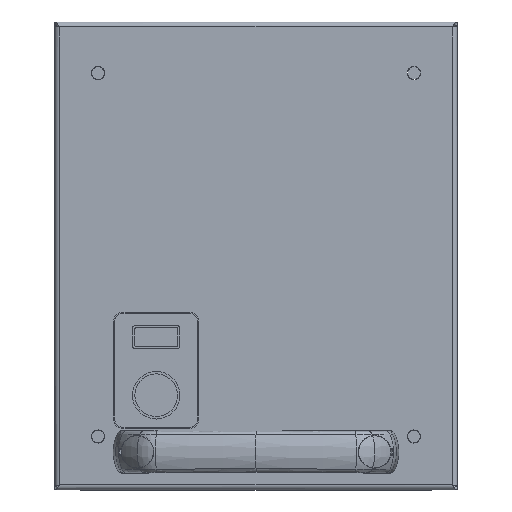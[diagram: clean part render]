
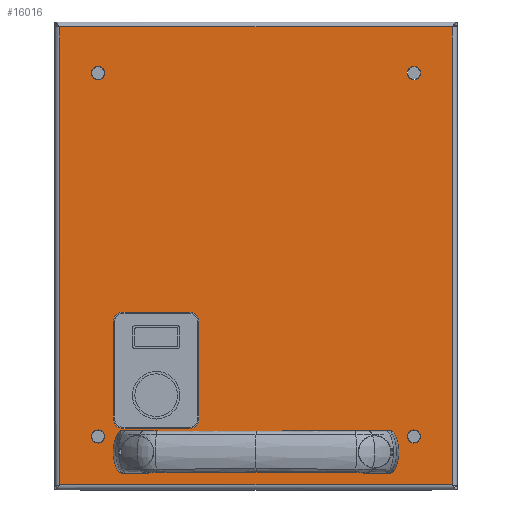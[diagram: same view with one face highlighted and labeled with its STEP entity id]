
A CAD part, top view. The second image highlights one B-rep face of the part: STEP entity #16016.
In plain terms, the highlighted planar face has unit normal (0, 0, 1).
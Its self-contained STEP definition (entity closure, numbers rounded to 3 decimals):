
#15056=CARTESIAN_POINT(' ',(52.75,-82.5,0.));
#15057=VERTEX_POINT(' ',#15056);
#15076=CARTESIAN_POINT(' ',(50.,-82.5,0.));
#15081=DIRECTION(' ',(0.,0.,1.));
#15086=DIRECTION(' ',(1.,0.,0.));
#15091=AXIS2_PLACEMENT_3D(' ',#15076,#15081,#15086);
#15096=CIRCLE('',#15091,2.75);
#15101=CARTESIAN_POINT(' ',(47.25,-82.5,0.));
#15102=VERTEX_POINT(' ',#15101);
#15106=EDGE_CURVE(' ',#15057,#15102,#15096,.T.);
#15276=CARTESIAN_POINT(' ',(50.,-82.5,0.));
#15281=DIRECTION(' ',(0.,0.,1.));
#15286=DIRECTION(' ',(-1.,0.,0.));
#15291=AXIS2_PLACEMENT_3D(' ',#15276,#15281,#15286);
#15296=CIRCLE('',#15291,2.75);
#15301=EDGE_CURVE(' ',#15102,#15057,#15296,.T.);
#15371=DIRECTION(' ',(-0.,-0.,1.));
#15376=CARTESIAN_POINT(' ',(82.65,-96.4,0.));
#15381=DIRECTION(' ',(0.,1.,0.));
#15386=AXIS2_PLACEMENT_3D(' ',#15376,#15371,#15381);
#15391=PLANE('NONE',#15386);
#15396=CARTESIAN_POINT(' ',(82.65,-96.4,0.));
#15401=DIRECTION(' ',(0.,1.,0.));
#15406=VECTOR(' ',#15401,1.);
#15411=LINE('',#15396,#15406);
#15416=CARTESIAN_POINT(' ',(82.65,-96.4,0.));
#15417=VERTEX_POINT(' ',#15416);
#15421=CARTESIAN_POINT(' ',(82.65,96.4,0.));
#15422=VERTEX_POINT(' ',#15421);
#15426=EDGE_CURVE(' ',#15417,#15422,#15411,.T.);
#15431=ORIENTED_EDGE(' ',*,*,#15426,.T.);
#15436=CARTESIAN_POINT(' ',(82.65,96.4,0.));
#15441=DIRECTION(' ',(-1.,0.,0.));
#15446=VECTOR(' ',#15441,1.);
#15451=LINE('',#15436,#15446);
#15456=CARTESIAN_POINT(' ',(-82.65,96.4,0.));
#15457=VERTEX_POINT(' ',#15456);
#15461=EDGE_CURVE(' ',#15422,#15457,#15451,.T.);
#15466=ORIENTED_EDGE(' ',*,*,#15461,.T.);
#15471=CARTESIAN_POINT(' ',(-82.65,96.4,0.));
#15476=DIRECTION(' ',(0.,-1.,0.));
#15481=VECTOR(' ',#15476,1.);
#15486=LINE('',#15471,#15481);
#15491=CARTESIAN_POINT(' ',(-82.65,-96.4,0.));
#15492=VERTEX_POINT(' ',#15491);
#15496=EDGE_CURVE(' ',#15457,#15492,#15486,.T.);
#15501=ORIENTED_EDGE(' ',*,*,#15496,.T.);
#15506=CARTESIAN_POINT(' ',(-82.65,-96.4,0.));
#15511=DIRECTION(' ',(1.,0.,0.));
#15516=VECTOR(' ',#15511,1.);
#15521=LINE('',#15506,#15516);
#15526=EDGE_CURVE(' ',#15492,#15417,#15521,.T.);
#15531=ORIENTED_EDGE(' ',*,*,#15526,.T.);
#15536=EDGE_LOOP(' ',(#15431,#15466,#15501,#15531));
#15541=FACE_OUTER_BOUND(' ',#15536,.T.);
#15546=ORIENTED_EDGE(' ',*,*,#15301,.F.);
#15551=ORIENTED_EDGE(' ',*,*,#15106,.F.);
#15556=EDGE_LOOP(' ',(#15546,#15551));
#15561=FACE_BOUND(' ',#15556,.T.);
#15566=CARTESIAN_POINT(' ',(-66.5,77.,0.));
#15571=DIRECTION(' ',(0.,-0.,-1.));
#15576=DIRECTION(' ',(-1.,0.,0.));
#15581=AXIS2_PLACEMENT_3D(' ',#15566,#15571,#15576);
#15586=CIRCLE('',#15581,2.75);
#15591=CARTESIAN_POINT(' ',(-69.25,77.,0.));
#15592=VERTEX_POINT(' ',#15591);
#15596=CARTESIAN_POINT(' ',(-63.75,77.,0.));
#15597=VERTEX_POINT(' ',#15596);
#15601=EDGE_CURVE(' ',#15592,#15597,#15586,.T.);
#15606=ORIENTED_EDGE(' ',*,*,#15601,.T.);
#15611=CARTESIAN_POINT(' ',(-66.5,77.,0.));
#15616=DIRECTION(' ',(0.,0.,-1.));
#15621=DIRECTION(' ',(1.,0.,0.));
#15626=AXIS2_PLACEMENT_3D(' ',#15611,#15616,#15621);
#15631=CIRCLE('',#15626,2.75);
#15636=EDGE_CURVE(' ',#15597,#15592,#15631,.T.);
#15641=ORIENTED_EDGE(' ',*,*,#15636,.T.);
#15646=EDGE_LOOP(' ',(#15606,#15641));
#15651=FACE_BOUND(' ',#15646,.T.);
#15656=CARTESIAN_POINT(' ',(66.5,-76.,0.));
#15661=DIRECTION(' ',(0.,-0.,-1.));
#15666=DIRECTION(' ',(-1.,0.,0.));
#15671=AXIS2_PLACEMENT_3D(' ',#15656,#15661,#15666);
#15676=CIRCLE('',#15671,2.75);
#15681=CARTESIAN_POINT(' ',(63.75,-76.,0.));
#15682=VERTEX_POINT(' ',#15681);
#15686=CARTESIAN_POINT(' ',(69.25,-76.,0.));
#15687=VERTEX_POINT(' ',#15686);
#15691=EDGE_CURVE(' ',#15682,#15687,#15676,.T.);
#15696=ORIENTED_EDGE(' ',*,*,#15691,.T.);
#15701=CARTESIAN_POINT(' ',(66.5,-76.,0.));
#15706=DIRECTION(' ',(0.,0.,-1.));
#15711=DIRECTION(' ',(1.,0.,0.));
#15716=AXIS2_PLACEMENT_3D(' ',#15701,#15706,#15711);
#15721=CIRCLE('',#15716,2.75);
#15726=EDGE_CURVE(' ',#15687,#15682,#15721,.T.);
#15731=ORIENTED_EDGE(' ',*,*,#15726,.T.);
#15736=EDGE_LOOP(' ',(#15696,#15731));
#15741=FACE_BOUND(' ',#15736,.T.);
#15746=CARTESIAN_POINT(' ',(-66.5,-76.,0.));
#15751=DIRECTION(' ',(0.,-0.,-1.));
#15756=DIRECTION(' ',(-1.,0.,0.));
#15761=AXIS2_PLACEMENT_3D(' ',#15746,#15751,#15756);
#15766=CIRCLE('',#15761,2.75);
#15771=CARTESIAN_POINT(' ',(-69.25,-76.,0.));
#15772=VERTEX_POINT(' ',#15771);
#15776=CARTESIAN_POINT(' ',(-63.75,-76.,0.));
#15777=VERTEX_POINT(' ',#15776);
#15781=EDGE_CURVE(' ',#15772,#15777,#15766,.T.);
#15786=ORIENTED_EDGE(' ',*,*,#15781,.T.);
#15791=CARTESIAN_POINT(' ',(-66.5,-76.,0.));
#15796=DIRECTION(' ',(0.,0.,-1.));
#15801=DIRECTION(' ',(1.,0.,0.));
#15806=AXIS2_PLACEMENT_3D(' ',#15791,#15796,#15801);
#15811=CIRCLE('',#15806,2.75);
#15816=EDGE_CURVE(' ',#15777,#15772,#15811,.T.);
#15821=ORIENTED_EDGE(' ',*,*,#15816,.T.);
#15826=EDGE_LOOP(' ',(#15786,#15821));
#15831=FACE_BOUND(' ',#15826,.T.);
#15836=CARTESIAN_POINT(' ',(66.5,77.,0.));
#15841=DIRECTION(' ',(0.,-0.,-1.));
#15846=DIRECTION(' ',(-1.,0.,0.));
#15851=AXIS2_PLACEMENT_3D(' ',#15836,#15841,#15846);
#15856=CIRCLE('',#15851,2.75);
#15861=CARTESIAN_POINT(' ',(63.75,77.,0.));
#15862=VERTEX_POINT(' ',#15861);
#15866=CARTESIAN_POINT(' ',(69.25,77.,0.));
#15867=VERTEX_POINT(' ',#15866);
#15871=EDGE_CURVE(' ',#15862,#15867,#15856,.T.);
#15876=ORIENTED_EDGE(' ',*,*,#15871,.T.);
#15881=CARTESIAN_POINT(' ',(66.5,77.,0.));
#15886=DIRECTION(' ',(0.,0.,-1.));
#15891=DIRECTION(' ',(1.,0.,0.));
#15896=AXIS2_PLACEMENT_3D(' ',#15881,#15886,#15891);
#15901=CIRCLE('',#15896,2.75);
#15906=EDGE_CURVE(' ',#15867,#15862,#15901,.T.);
#15911=ORIENTED_EDGE(' ',*,*,#15906,.T.);
#15916=EDGE_LOOP(' ',(#15876,#15911));
#15921=FACE_BOUND(' ',#15916,.T.);
#15926=CARTESIAN_POINT(' ',(-50.,-82.5,0.));
#15931=DIRECTION(' ',(0.,0.,1.));
#15936=DIRECTION(' ',(-1.,0.,0.));
#15941=AXIS2_PLACEMENT_3D(' ',#15926,#15931,#15936);
#15946=CIRCLE('',#15941,2.75);
#15951=CARTESIAN_POINT(' ',(-52.75,-82.5,0.));
#15952=VERTEX_POINT(' ',#15951);
#15956=CARTESIAN_POINT(' ',(-47.25,-82.5,0.));
#15957=VERTEX_POINT(' ',#15956);
#15961=EDGE_CURVE(' ',#15952,#15957,#15946,.T.);
#15966=ORIENTED_EDGE(' ',*,*,#15961,.F.);
#15971=CARTESIAN_POINT(' ',(-50.,-82.5,0.));
#15976=DIRECTION(' ',(0.,0.,1.));
#15981=DIRECTION(' ',(1.,0.,0.));
#15986=AXIS2_PLACEMENT_3D(' ',#15971,#15976,#15981);
#15991=CIRCLE('',#15986,2.75);
#15996=EDGE_CURVE(' ',#15957,#15952,#15991,.T.);
#16001=ORIENTED_EDGE(' ',*,*,#15996,.F.);
#16006=EDGE_LOOP(' ',(#15966,#16001));
#16011=FACE_BOUND(' ',#16006,.T.);
#16016=ADVANCED_FACE('NONE',(#15541,#15561,#15651,#15741,#15831,#15921,#16011),#15391,.T.);
